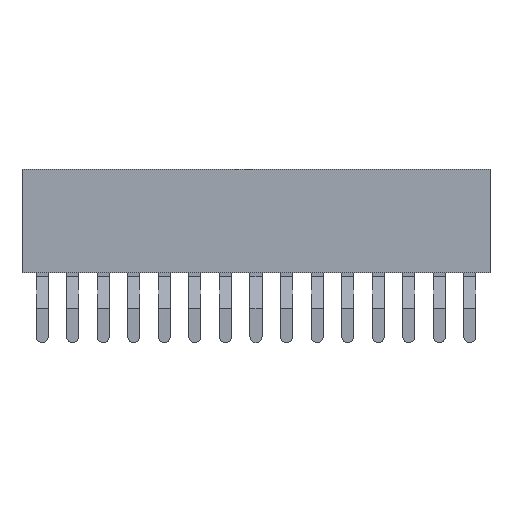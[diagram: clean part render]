
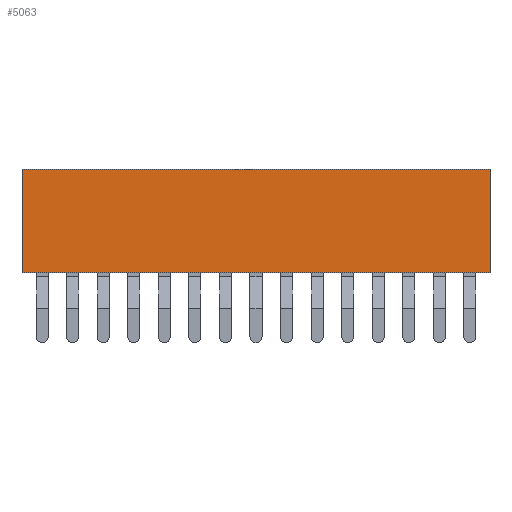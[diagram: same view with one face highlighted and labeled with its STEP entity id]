
A CAD part, top view. The second image highlights one B-rep face of the part: STEP entity #5063.
In plain terms, the highlighted planar face has unit normal (0, 0, 1).
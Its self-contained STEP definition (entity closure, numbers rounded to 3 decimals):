
#322=FACE_OUTER_BOUND('',#617,.T.);
#617=EDGE_LOOP('',(#4479,#4480,#4481,#4482));
#666=LINE('',#6789,#1335);
#1261=LINE('',#8064,#1930);
#1286=LINE('',#8097,#1955);
#1287=LINE('',#8099,#1956);
#1335=VECTOR('',#5486,10.);
#1930=VECTOR('',#6643,10.);
#1955=VECTOR('',#6678,10.);
#1956=VECTOR('',#6681,10.);
#2020=VERTEX_POINT('',#6786);
#2021=VERTEX_POINT('',#6788);
#2419=VERTEX_POINT('',#8061);
#2420=VERTEX_POINT('',#8063);
#2472=EDGE_CURVE('',#2021,#2020,#666,.T.);
#3095=EDGE_CURVE('',#2420,#2419,#1261,.T.);
#3120=EDGE_CURVE('',#2420,#2020,#1286,.T.);
#3121=EDGE_CURVE('',#2419,#2021,#1287,.T.);
#4479=ORIENTED_EDGE('',*,*,#3095,.T.);
#4480=ORIENTED_EDGE('',*,*,#3121,.T.);
#4481=ORIENTED_EDGE('',*,*,#2472,.T.);
#4482=ORIENTED_EDGE('',*,*,#3120,.F.);
#4783=PLANE('',#5393);
#5063=ADVANCED_FACE('',(#322),#4783,.T.);
#5393=AXIS2_PLACEMENT_3D('',#8098,#6679,#6680);
#5486=DIRECTION('',(0.,1.,0.));
#6643=DIRECTION('',(0.,-1.,0.));
#6678=DIRECTION('',(1.,0.,0.));
#6679=DIRECTION('center_axis',(0.,0.,1.));
#6680=DIRECTION('ref_axis',(1.,0.,0.));
#6681=DIRECTION('',(1.,0.,0.));
#6786=CARTESIAN_POINT('',(4.21,4.3,0.));
#6788=CARTESIAN_POINT('',(4.21,0.,0.));
#6789=CARTESIAN_POINT('',(4.21,0.,0.));
#8061=CARTESIAN_POINT('',(-15.24,0.,0.));
#8063=CARTESIAN_POINT('',(-15.24,4.3,0.));
#8064=CARTESIAN_POINT('',(-15.24,0.,0.));
#8097=CARTESIAN_POINT('',(1.27,4.3,0.));
#8098=CARTESIAN_POINT('Origin',(-17.98,0.,0.));
#8099=CARTESIAN_POINT('',(1.27,0.,0.));
